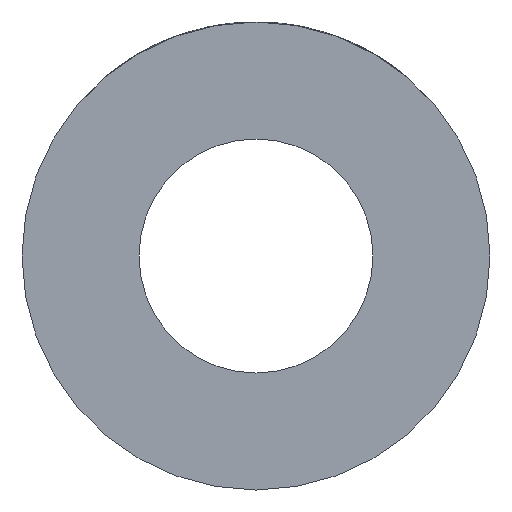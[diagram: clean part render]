
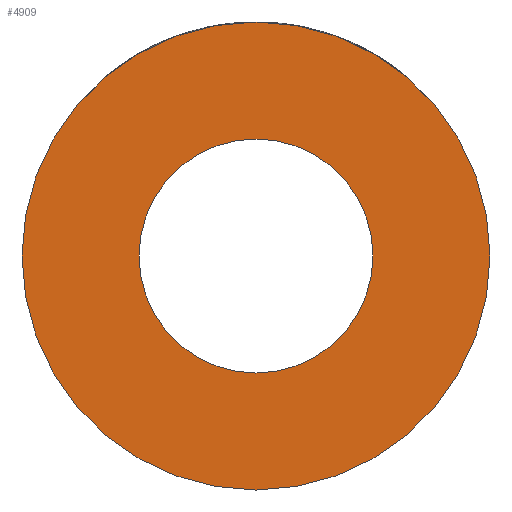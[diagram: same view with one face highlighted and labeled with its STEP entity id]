
A CAD part, left-side view. The second image highlights one B-rep face of the part: STEP entity #4909.
In plain terms, the highlighted planar face has unit normal (-1, 0, 0).
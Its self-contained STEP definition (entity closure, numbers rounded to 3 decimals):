
#112=PLANE('',#5291);
#525=CIRCLE('',#5290,6.);
#526=CIRCLE('',#5292,3.);
#833=ORIENTED_EDGE('',*,*,#2313,.T.);
#834=ORIENTED_EDGE('',*,*,#2312,.F.);
#2312=EDGE_CURVE('',#3052,#3052,#525,.T.);
#2313=EDGE_CURVE('',#3053,#3053,#526,.T.);
#3052=VERTEX_POINT('',#7701);
#3053=VERTEX_POINT('',#7704);
#4179=EDGE_LOOP('',(#833));
#4180=EDGE_LOOP('',(#834));
#4538=FACE_BOUND('',#4179,.T.);
#4539=FACE_BOUND('',#4180,.T.);
#4909=ADVANCED_FACE('',(#4538,#4539),#112,.F.);
#5290=AXIS2_PLACEMENT_3D('',#7700,#5797,#5798);
#5291=AXIS2_PLACEMENT_3D('',#7702,#5799,#5800);
#5292=AXIS2_PLACEMENT_3D('',#7703,#5801,#5802);
#5797=DIRECTION('',(1.,0.,0.));
#5798=DIRECTION('',(0.,0.,-1.));
#5799=DIRECTION('',(1.,0.,0.));
#5800=DIRECTION('',(0.,0.,-1.));
#5801=DIRECTION('',(1.,0.,0.));
#5802=DIRECTION('',(0.,0.,-1.));
#7700=CARTESIAN_POINT('',(-17.5,0.,0.));
#7701=CARTESIAN_POINT('',(-17.5,0.,-6.));
#7702=CARTESIAN_POINT('',(-17.5,0.,0.));
#7703=CARTESIAN_POINT('',(-17.5,0.,0.));
#7704=CARTESIAN_POINT('',(-17.5,0.,-3.));
